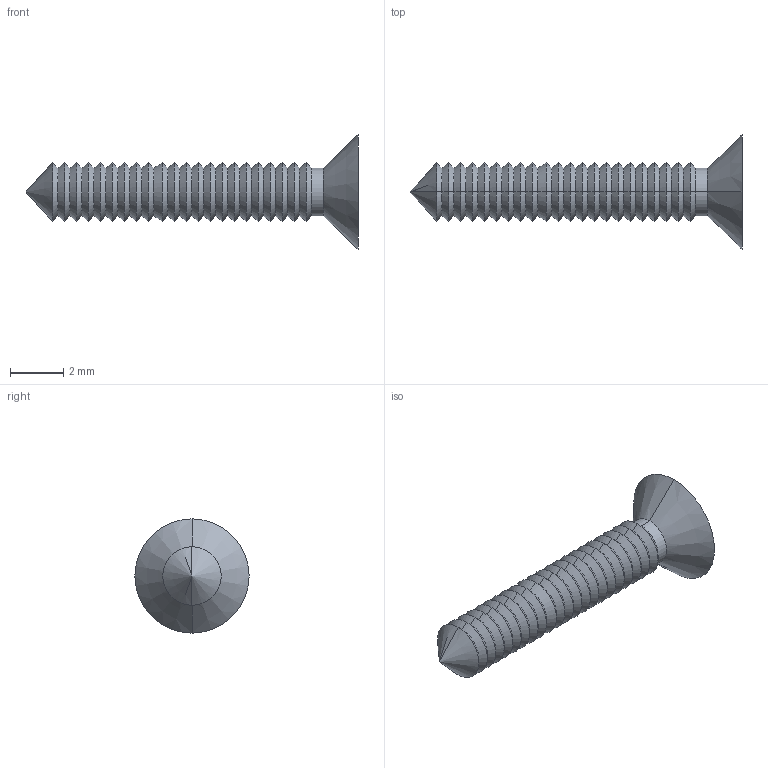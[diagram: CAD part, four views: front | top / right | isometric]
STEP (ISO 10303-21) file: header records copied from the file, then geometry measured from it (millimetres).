
FILE_DESCRIPTION (( 'STEP AP214' ), '1' );
FILE_NAME ('Cargol 2,2x13 PP82.STEP', '2018-01-23T11:12:43', ( 'aaa' ), ( '' ), 'SwSTEP 2.0', 'SolidWorks 2013', '' );
FILE_SCHEMA (( 'AUTOMOTIVE_DESIGN' ));
Length unit declared in the file: millimetre
Products named in the file (1): Cargol 2,2x13 PP82
Bounding box: 12.5 x 4.3 x 4.3 mm (x, y, z)
Volume: 42.7 mm3; surface area: 123.8 mm2
Topology: 1 solids, 1 shells, 106 faces, 222 edges, 117 vertices
Faces by surface type: cone 90, plane 14, cylinder 2
Entity records: 2758 total; most frequent: DIRECTION 526, CARTESIAN_POINT 444, ORIENTED_EDGE 440, EDGE_CURVE 220, AXIS2_PLACEMENT_3D 199, VECTOR 128, LINE 128, VERTEX_POINT 117
